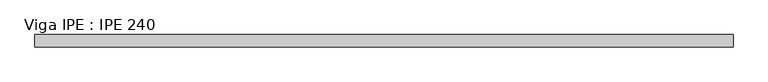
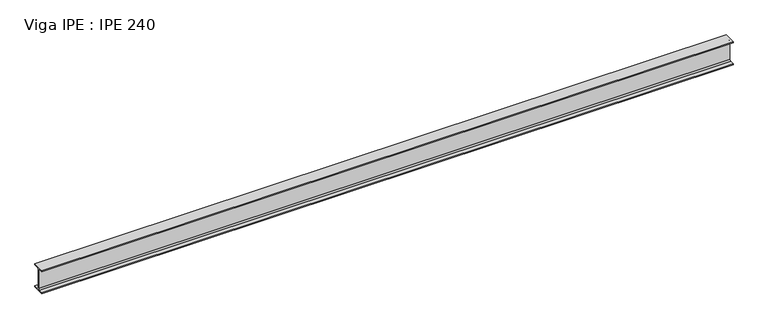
"""IFC4 building model written with IfcOpenShell, lengths in millimetres: beam geometry, Viga IPE : IPE 240."""

import ifcopenshell
import ifcopenshell.guid

model = None  # the IFC model being written
_history = None  # IfcOwnerHistory: only IFC2X3 demands one
_inside = {}  # id of a spatial element -> (the spatial element, [elements in it])
_under = {}  # id of a project, library or spatial element -> (it, [spatial elements below it])
_declared = {}  # id of a project -> (the project, [libraries it declares])
_typed = {}  # id of a type object -> (the type object, [elements of that type])
_made_of = {}  # id of a material, layer set ... -> (it, [elements and type objects made of it])


def new_model(schema):
    """Start an empty IFC model of exactly this schema.

    Asked for "IFC4X3", IfcOpenShell would pick the latest addendum, in which some entities
    have other attributes; the version numbers below select the first issue.
    IFC2X3 requires an IfcOwnerHistory on every rooted entity: one is made here for all.
    """
    global model, _history
    if schema == "IFC4X3":
        model = ifcopenshell.file(schema_version=(4, 3, 0, 0))
    else:
        model = ifcopenshell.file(schema=schema)
    _inside.clear()
    _under.clear()
    _declared.clear()
    _typed.clear()
    _made_of.clear()
    _history = None
    if model.schema == "IFC2X3":
        org = make("IfcOrganization", Name="unknown")
        user = make(
            "IfcPersonAndOrganization",
            ThePerson=make("IfcPerson", FamilyName="unknown"),
            TheOrganization=org,
        )
        app = make(
            "IfcApplication",
            ApplicationDeveloper=org,
            Version="unknown",
            ApplicationFullName="unknown",
            ApplicationIdentifier="unknown",
        )
        _history = make(
            "IfcOwnerHistory",
            OwningUser=user,
            OwningApplication=app,
            ChangeAction="ADDED",
            CreationDate=0,
        )
    return model


def make(cls, **values):
    """One entity of the class cls with the attributes given. An attribute that is None is left unset."""
    return model.create_entity(
        cls, **{name: value for name, value in values.items() if value is not None}
    )


def rooted(cls, **values):
    """An entity with a GlobalId (a new one), such as an element, a storey or a relation."""
    return make(cls, GlobalId=ifcopenshell.guid.new(), OwnerHistory=_history, **values)


def si_unit(unit_type, name, prefix=None):
    """IfcSIUnit, for example si_unit("LENGTHUNIT", "METRE", prefix="MILLI")."""
    return make("IfcSIUnit", UnitType=unit_type, Prefix=prefix, Name=name)


def assignment(units):
    """IfcUnitAssignment: the units of a project."""
    return None if units is None else make("IfcUnitAssignment", Units=units)


def point(xyz):
    """IfcCartesianPoint."""
    return None if xyz is None else make("IfcCartesianPoint", Coordinates=xyz)


def direction(xyz):
    """IfcDirection."""
    return None if xyz is None else make("IfcDirection", DirectionRatios=xyz)


def frame(location, z_axis=None, x_axis=None):
    """IfcAxis2Placement3D, a coordinate frame: its origin and axes. An axis left out is left unset."""
    return make(
        "IfcAxis2Placement3D",
        Location=point(location),
        Axis=direction(z_axis),
        RefDirection=direction(x_axis),
    )


def frame_2d(location, x_axis=None):
    """IfcAxis2Placement2D, a coordinate frame in the plane: its origin and x axis."""
    return make(
        "IfcAxis2Placement2D", Location=point(location), RefDirection=direction(x_axis)
    )


def origin():
    """The frame at (0, 0, 0) with its axes left unset."""
    return frame((0.0, 0.0, 0.0))


def place(relative_to, where):
    """IfcLocalPlacement: puts the frame where relative to a parent placement (None: the world)."""
    return make(
        "IfcLocalPlacement", PlacementRelTo=relative_to, RelativePlacement=where
    )


def context(
    kind, dimensions, precision=None, world=None, true_north=None, identifier=None
):
    """IfcGeometricRepresentationContext, for example the 3D "Model" context."""
    return make(
        "IfcGeometricRepresentationContext",
        ContextIdentifier=identifier,
        ContextType=kind,
        CoordinateSpaceDimension=dimensions,
        Precision=precision,
        WorldCoordinateSystem=world,
        TrueNorth=true_north,
    )


def project(units=None, contexts=None):
    """IfcProject with its units and contexts."""
    return rooted(
        "IfcProject",
        Name="project",
        RepresentationContexts=contexts,
        UnitsInContext=assignment(units),
    )


def spatial(cls, under=None, at=None, **own):
    """A site, building, storey or space (cls), placed at a placement, below another one or the project."""
    s = rooted(cls, ObjectPlacement=at, **own)
    if under is not None:
        _under.setdefault(under.id(), (under, []))[1].append(s)
    return s


def polyline(points):
    """IfcPolyline through the points."""
    return make("IfcPolyline", Points=[point(p) for p in points])


def circle_curve(where, radius):
    """IfcCircle in the frame where."""
    return make("IfcCircle", Position=where, Radius=radius)


def trimmed(basis, trim1, trim2, sense, master):
    """IfcTrimmedCurve: the piece of a basis curve between two trims."""
    return make(
        "IfcTrimmedCurve",
        BasisCurve=basis,
        Trim1=trim1,
        Trim2=trim2,
        SenseAgreement=sense,
        MasterRepresentation=master,
    )


def segment(curve, same_sense, transition):
    """IfcCompositeCurveSegment."""
    return make(
        "IfcCompositeCurveSegment",
        Transition=transition,
        SameSense=same_sense,
        ParentCurve=curve,
    )


def composite_curve(segments, self_intersect=None):
    """IfcCompositeCurve: segments joined end to end."""
    return make("IfcCompositeCurve", Segments=segments, SelfIntersect=self_intersect)


def outline(outer, holes=None, kind="AREA"):
    """IfcArbitraryClosedProfileDef: a profile drawn as a closed curve; with holes, ...WithVoids."""
    if holes is None:
        return make("IfcArbitraryClosedProfileDef", ProfileType=kind, OuterCurve=outer)
    return make(
        "IfcArbitraryProfileDefWithVoids",
        ProfileType=kind,
        OuterCurve=outer,
        InnerCurves=holes,
    )


def extrude(swept, where, along, depth):
    """IfcExtrudedAreaSolid: the profile swept, set in the frame where, extruded along a direction by depth."""
    return make(
        "IfcExtrudedAreaSolid",
        SweptArea=swept,
        Position=where,
        ExtrudedDirection=direction(along),
        Depth=depth,
    )


def shape(context_of_items, identifier, shape_type, items):
    """IfcShapeRepresentation: the items that make up one representation, for example the "Body"."""
    return make(
        "IfcShapeRepresentation",
        ContextOfItems=context_of_items,
        RepresentationIdentifier=identifier,
        RepresentationType=shape_type,
        Items=items,
    )


def source(mapping_origin, context_of_items, identifier, shape_type, items):
    """IfcRepresentationMap: a shape defined once, which mapped items show again and again."""
    return make(
        "IfcRepresentationMap",
        MappingOrigin=mapping_origin,
        MappedRepresentation=shape(context_of_items, identifier, shape_type, items),
    )


def transform(
    local_origin,
    x_axis=None,
    y_axis=None,
    z_axis=None,
    scale=None,
    scale2=None,
    scale3=None,
    uniform=True,
):
    """IfcCartesianTransformationOperator3D, or its non-uniform kind. x_axis, y_axis, z_axis: its Axis1, 2, 3."""
    if uniform:
        return make(
            "IfcCartesianTransformationOperator3D",
            Axis1=direction(x_axis),
            Axis2=direction(y_axis),
            LocalOrigin=point(local_origin),
            Scale=scale,
            Axis3=direction(z_axis),
        )
    return make(
        "IfcCartesianTransformationOperator3DnonUniform",
        Axis1=direction(x_axis),
        Axis2=direction(y_axis),
        LocalOrigin=point(local_origin),
        Scale=scale,
        Axis3=direction(z_axis),
        Scale2=scale2,
        Scale3=scale3,
    )


def mapped(mapping_source, mapping_target):
    """IfcMappedItem: shows the shape of a source again, moved by a transform."""
    return make(
        "IfcMappedItem", MappingSource=mapping_source, MappingTarget=mapping_target
    )


def made_of(thing, what):
    """Note that an element or type object is made of a material, layer set ...; save() writes the relation."""
    if what is not None:
        _made_of.setdefault(what.id(), (what, []))[1].append(thing)
    return thing


def element(
    cls,
    number,
    at=None,
    inside=None,
    cuts=None,
    type_object=None,
    material=None,
    context=None,
    identifier="Body",
    shape_type=None,
    held_by="IfcProductDefinitionShape",
    body=None,
    shapes=None,
    **own,
):
    """One element of the class cls, such as IfcWall. Its Tag is "e" and its number.

    at: its placement. inside: the storey or other place that contains it. cuts: it is an
    opening in that element (IfcRelVoidsElement). A single representation is given by context,
    identifier, shape_type and body (its items); several are given by shapes. held_by: the class
    of the entity that holds the representations. save() writes the other relations.
    """
    e = rooted(cls, Tag="e%d" % number, ObjectPlacement=at, **own)
    if body is not None:
        shapes = [shape(context, identifier, shape_type, body)]
    if shapes is not None:
        e.Representation = make(held_by, Representations=shapes)
    if inside is not None:
        _inside.setdefault(inside.id(), (inside, []))[1].append(e)
    if cuts is not None:
        rooted(
            "IfcRelVoidsElement", RelatingBuildingElement=cuts, RelatedOpeningElement=e
        )
    if type_object is not None:
        _typed.setdefault(type_object.id(), (type_object, []))[1].append(e)
    return made_of(e, material)


def aggregate(whole, parts):
    """IfcRelAggregates: a whole, such as a stair, and the parts it consists of."""
    return rooted("IfcRelAggregates", RelatingObject=whole, RelatedObjects=parts)


def save(model, path):
    """Write the relations noted so far, then the file.

    IfcRelAggregates (storeys below a building ...), IfcRelContainedInSpatialStructure (elements
    in a storey), IfcRelDefinesByType, IfcRelAssociatesMaterial and IfcRelDeclares: one each for
    every whole, place, type object, material and project.
    """
    for whole, parts in _under.values():
        aggregate(whole, parts)
    for where, things in _inside.values():
        rooted(
            "IfcRelContainedInSpatialStructure",
            RelatedElements=things,
            RelatingStructure=where,
        )
    for kind, things in _typed.values():
        rooted("IfcRelDefinesByType", RelatedObjects=things, RelatingType=kind)
    for what, things in _made_of.values():
        rooted("IfcRelAssociatesMaterial", RelatedObjects=things, RelatingMaterial=what)
    for by, libraries in _declared.values():
        rooted("IfcRelDeclares", RelatingContext=by, RelatedDefinitions=libraries)
    model.write(path)


def viga_ipe_ipe_240_e01e1696(model_context):
    return source(origin(), model_context, "Body", "SweptSolid", [
        extrude(outline(composite_curve([segment(polyline([(60.0, -110.2), (60.0, -120.0), (-60.0, -120.0), (-60.0, -110.2), (-18.1, -110.2)]), True, "CONTINUOUS"), segment(trimmed(circle_curve(frame_2d((-18.1, -95.2)), 15.0), [point((-18.1, -110.2))], [point((-3.1, -95.2))], True, "CARTESIAN"), True, "CONTINUOUS"), segment(polyline([(-3.1, -95.2), (-3.1, 95.2)]), True, "CONTINUOUS"), segment(trimmed(circle_curve(frame_2d((-18.1, 95.2)), 15.0), [point((-3.1, 95.2))], [point((-18.1, 110.2))], True, "CARTESIAN"), True, "CONTINUOUS"), segment(polyline([(-18.1, 110.2), (-60.0, 110.2), (-60.0, 120.0), (60.0, 120.0), (60.0, 110.2), (18.1, 110.2)]), True, "CONTINUOUS"), segment(trimmed(circle_curve(frame_2d((18.1, 95.2)), 15.0), [point((18.1, 110.2))], [point((3.1, 95.2))], True, "CARTESIAN"), True, "CONTINUOUS"), segment(polyline([(3.1, 95.2), (3.1, -95.2)]), True, "CONTINUOUS"), segment(trimmed(circle_curve(frame_2d((18.1, -95.2)), 15.0), [point((3.1, -95.2))], [point((18.1, -110.2))], True, "CARTESIAN"), True, "CONTINUOUS"), segment(polyline([(18.1, -110.2), (60.0, -110.2)]), True, "CONTINUOUS")], self_intersect=False)), frame((-3422.0, 0.0, 0.0), z_axis=(1.0, 0.0, 0.0), x_axis=(0.0, 1.0, 0.0)), (0.0, 0.0, 1.0), 6846.0),
    ])


if __name__ == "__main__":
    model = new_model("IFC4")
    model_context = context("Model", 3, world=origin())
    ifc_project = project(units=[si_unit("LENGTHUNIT", "METRE", prefix="MILLI")], contexts=[model_context])
    site = spatial("IfcSite", under=ifc_project)
    building = spatial("IfcBuilding", under=site)
    placement = place(None, origin())
    viga_ipe_ipe_240_shape = viga_ipe_ipe_240_e01e1696(model_context)
    element("IfcBeam", 1, ObjectType="Viga IPE : IPE 240", at=placement, inside=building, context=model_context, shape_type="MappedRepresentation", body=[
        mapped(viga_ipe_ipe_240_shape, transform((0.0, 0.0, 0.0), x_axis=(1.0, 0.0, 0.0), y_axis=(0.0, 1.0, 0.0), z_axis=(0.0, 0.0, 1.0))),
    ])
    save(model, "model.ifc")
